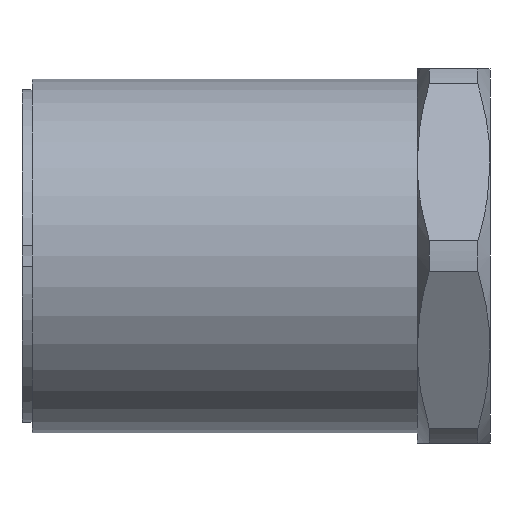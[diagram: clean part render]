
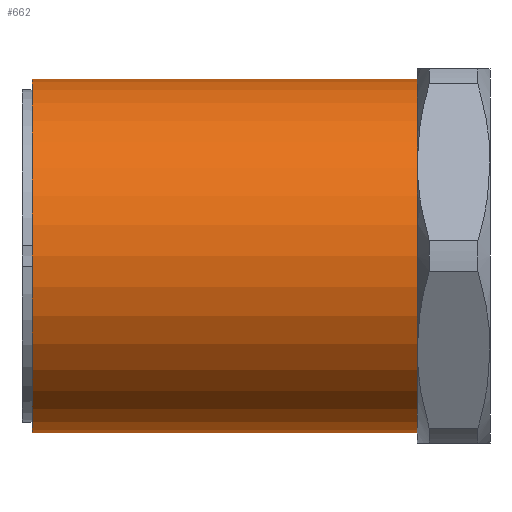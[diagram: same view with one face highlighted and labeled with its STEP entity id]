
A CAD part, front view. The second image highlights one B-rep face of the part: STEP entity #662.
In plain terms, the highlighted cylindrical face has radius 8.5 mm (diameter 17 mm), a partial arc.
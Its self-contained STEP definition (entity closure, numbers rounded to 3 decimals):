
#3 = ORIENTED_EDGE ( 'NONE', *, *, #1267, .T. ) ;
#9 = ORIENTED_EDGE ( 'NONE', *, *, #1268, .F. ) ;
#19 = CARTESIAN_POINT ( 'NONE',  ( 0., 0., 0. ) ) ;
#21 = DIRECTION ( 'NONE',  ( -1., 0., 0. ) ) ;
#22 = CARTESIAN_POINT ( 'NONE',  ( 0., 0., -8.5 ) ) ;
#144 = DIRECTION ( 'NONE',  ( 0., 0., 1. ) ) ;
#145 = DIRECTION ( 'NONE',  ( -1., 0., 0. ) ) ;
#153 = CARTESIAN_POINT ( 'NONE',  ( 18.5, 0., 0. ) ) ;
#336 = CARTESIAN_POINT ( 'NONE',  ( 0., 0., 0. ) ) ;
#337 = DIRECTION ( 'NONE',  ( -1., 0., 0. ) ) ;
#341 = DIRECTION ( 'NONE',  ( 0., 0., 1. ) ) ;
#364 = CARTESIAN_POINT ( 'NONE',  ( 18.5, 0., -8.5 ) ) ;
#373 = CARTESIAN_POINT ( 'NONE',  ( 0., 0., -8.5 ) ) ;
#375 = CARTESIAN_POINT ( 'NONE',  ( 18.5, 0., 8.5 ) ) ;
#376 = CARTESIAN_POINT ( 'NONE',  ( 0., 0., 8.5 ) ) ;
#477 = VERTEX_POINT ( 'NONE', #376 ) ;
#478 = VERTEX_POINT ( 'NONE', #375 ) ;
#480 = VERTEX_POINT ( 'NONE', #373 ) ;
#489 = VERTEX_POINT ( 'NONE', #364 ) ;
#503 = CARTESIAN_POINT ( 'NONE',  ( 0., 0., 8.5 ) ) ;
#504 = DIRECTION ( 'NONE',  ( -1., 0., 0. ) ) ;
#505 = DIRECTION ( 'NONE',  ( -1., 0., 0. ) ) ;
#506 = DIRECTION ( 'NONE',  ( 0., 0., 1. ) ) ;
#662 = ADVANCED_FACE ( 'NONE', ( #925 ), #934, .T. ) ;
#765 = ORIENTED_EDGE ( 'NONE', *, *, #1263, .F. ) ;
#917 = ORIENTED_EDGE ( 'NONE', *, *, #1226, .T. ) ;
#925 = FACE_OUTER_BOUND ( 'NONE', #1520, .T. ) ;
#934 = CYLINDRICAL_SURFACE ( 'NONE', #1433, 8.5 ) ;
#1021 = CIRCLE ( 'NONE', #1562, 8.5 ) ;
#1056 = VECTOR ( 'NONE', #21, 1000. ) ;
#1061 = LINE ( 'NONE', #22, #1056 ) ;
#1065 = LINE ( 'NONE', #503, #1066 ) ;
#1066 = VECTOR ( 'NONE', #504, 1000. ) ;
#1069 = CIRCLE ( 'NONE', #1543, 8.5 ) ;
#1226 = EDGE_CURVE ( 'NONE', #489, #478, #1021, .T. ) ;
#1263 = EDGE_CURVE ( 'NONE', #489, #480, #1061, .T. ) ;
#1267 = EDGE_CURVE ( 'NONE', #478, #477, #1065, .T. ) ;
#1268 = EDGE_CURVE ( 'NONE', #480, #477, #1069, .T. ) ;
#1433 = AXIS2_PLACEMENT_3D ( 'NONE', #336, #337, #341 ) ;
#1520 = EDGE_LOOP ( 'NONE', ( #765, #917, #3, #9 ) ) ;
#1543 = AXIS2_PLACEMENT_3D ( 'NONE', #19, #505, #506 ) ;
#1562 = AXIS2_PLACEMENT_3D ( 'NONE', #153, #145, #144 ) ;
